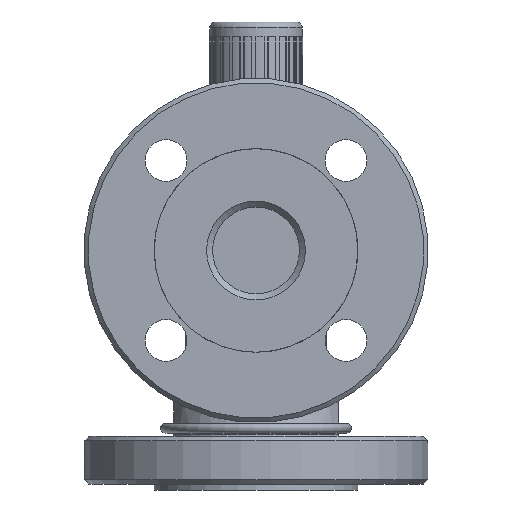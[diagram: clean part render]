
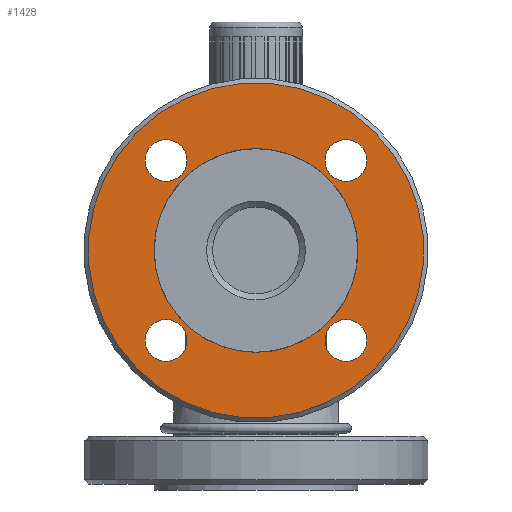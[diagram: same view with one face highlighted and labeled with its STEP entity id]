
A CAD part, left-side view. The second image highlights one B-rep face of the part: STEP entity #1428.
In plain terms, the highlighted planar face has unit normal (-1, 0, 0).
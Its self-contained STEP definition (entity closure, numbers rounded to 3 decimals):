
#947=FACE_BOUND('',#2246,.T.);
#948=FACE_BOUND('',#2247,.T.);
#949=FACE_BOUND('',#2248,.T.);
#950=FACE_BOUND('',#2249,.T.);
#951=FACE_BOUND('',#2250,.T.);
#952=FACE_BOUND('',#2251,.T.);
#1428=ADVANCED_FACE('',(#947,#948,#949,#950,#951,#952),#1635,.T.);
#1635=PLANE('',#5512);
#2246=EDGE_LOOP('',(#3424));
#2247=EDGE_LOOP('',(#3425));
#2248=EDGE_LOOP('',(#3426));
#2249=EDGE_LOOP('',(#3427));
#2250=EDGE_LOOP('',(#3428));
#2251=EDGE_LOOP('',(#3429));
#3424=ORIENTED_EDGE('',*,*,#4638,.T.);
#3425=ORIENTED_EDGE('',*,*,#4639,.F.);
#3426=ORIENTED_EDGE('',*,*,#4640,.T.);
#3427=ORIENTED_EDGE('',*,*,#4641,.T.);
#3428=ORIENTED_EDGE('',*,*,#4642,.T.);
#3429=ORIENTED_EDGE('',*,*,#4643,.T.);
#4026=VERTEX_POINT('',#14281);
#4027=VERTEX_POINT('',#14283);
#4028=VERTEX_POINT('',#14285);
#4029=VERTEX_POINT('',#14287);
#4030=VERTEX_POINT('',#14289);
#4031=VERTEX_POINT('',#14291);
#4638=EDGE_CURVE('',#4026,#4026,#4969,.T.);
#4639=EDGE_CURVE('',#4027,#4027,#4970,.T.);
#4640=EDGE_CURVE('',#4028,#4028,#4971,.T.);
#4641=EDGE_CURVE('',#4029,#4029,#4972,.T.);
#4642=EDGE_CURVE('',#4030,#4030,#4973,.T.);
#4643=EDGE_CURVE('',#4031,#4031,#4974,.T.);
#4969=CIRCLE('',#5506,56.);
#4970=CIRCLE('',#5507,34.);
#4971=CIRCLE('',#5508,7.);
#4972=CIRCLE('',#5509,7.);
#4973=CIRCLE('',#5510,7.);
#4974=CIRCLE('',#5511,7.);
#5506=AXIS2_PLACEMENT_3D('',#14280,#6800,#6801);
#5507=AXIS2_PLACEMENT_3D('',#14282,#6802,#6803);
#5508=AXIS2_PLACEMENT_3D('',#14284,#6804,#6805);
#5509=AXIS2_PLACEMENT_3D('',#14286,#6806,#6807);
#5510=AXIS2_PLACEMENT_3D('',#14288,#6808,#6809);
#5511=AXIS2_PLACEMENT_3D('',#14290,#6810,#6811);
#5512=AXIS2_PLACEMENT_3D('',#14292,#6812,#6813);
#6800=DIRECTION('',(-1.,0.,0.));
#6801=DIRECTION('',(0.,-0.707,-0.707));
#6802=DIRECTION('',(-1.,0.,0.));
#6803=DIRECTION('',(0.,-0.707,-0.707));
#6804=DIRECTION('',(1.,0.,0.));
#6805=DIRECTION('',(0.,0.707,-0.707));
#6806=DIRECTION('',(1.,0.,0.));
#6807=DIRECTION('',(0.,-0.707,-0.707));
#6808=DIRECTION('',(1.,0.,0.));
#6809=DIRECTION('',(0.,-0.707,0.707));
#6810=DIRECTION('',(1.,0.,0.));
#6811=DIRECTION('',(0.,0.707,0.707));
#6812=DIRECTION('',(-1.,0.,0.));
#6813=DIRECTION('',(0.,-0.707,-0.707));
#14280=CARTESIAN_POINT('',(22.,0.,100.));
#14281=CARTESIAN_POINT('',(22.,-39.598,60.402));
#14282=CARTESIAN_POINT('',(22.,0.,100.));
#14283=CARTESIAN_POINT('',(22.,-24.042,75.958));
#14284=CARTESIAN_POINT('',(22.,-30.052,69.948));
#14285=CARTESIAN_POINT('',(22.,-25.102,64.998));
#14286=CARTESIAN_POINT('',(22.,-30.052,130.052));
#14287=CARTESIAN_POINT('',(22.,-35.002,125.102));
#14288=CARTESIAN_POINT('',(22.,30.052,130.052));
#14289=CARTESIAN_POINT('',(22.,25.102,135.002));
#14290=CARTESIAN_POINT('',(22.,30.052,69.948));
#14291=CARTESIAN_POINT('',(22.,35.002,74.898));
#14292=CARTESIAN_POINT('',(22.,0.,100.));
